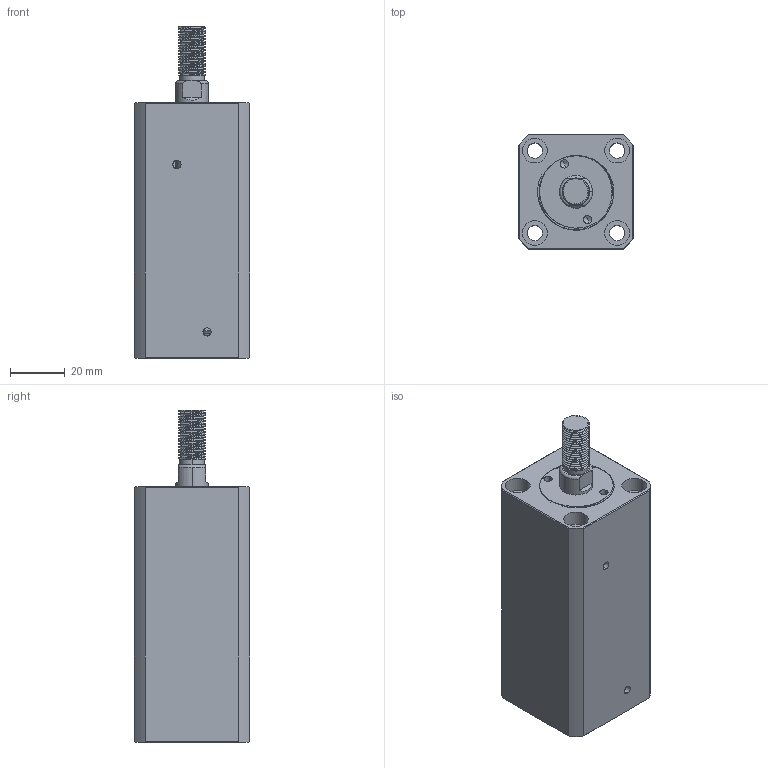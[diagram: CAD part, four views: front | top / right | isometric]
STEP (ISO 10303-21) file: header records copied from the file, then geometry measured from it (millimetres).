
FILE_DESCRIPTION (( 'STEP AP214' ), '1' );
FILE_NAME ('chtb-sdmb20x50w_asm.STEP', '2018-05-18T08:35:36', ( 'Windows' ), ( 'Microsoft' ), 'SwSTEP 2.0', 'SolidWorks 2015', '' );
FILE_SCHEMA (( 'AUTOMOTIVE_DESIGN' ));
Length unit declared in the file: millimetre
Products named in the file (4): QG_3; CHTB-SDMB20X50WHSG; CHTB-SDMB20X50NBT; chtb-sdmb20x50w_asm
Assembly tree (3 placements, depth 2):
  chtb-sdmb20x50w_asm
    CHTB-SDMB20X50NBT
    CHTB-SDMB20X50WHSG
    QG_3
Bounding box: 42 x 42 x 121 mm (x, y, z)
Volume: 140632.4 mm3; surface area: 41819.5 mm2
Topology: 3 solids, 3 shells, 243 faces, 660 edges, 439 vertices
Faces by surface type: cylinder 143, plane 47, torus 25, bspline 23, cone 5
Entity records: 14768 total; most frequent: CARTESIAN_POINT 8984, ORIENTED_EDGE 1312, DIRECTION 1058, EDGE_CURVE 656, VERTEX_POINT 439, AXIS2_PLACEMENT_3D 434, EDGE_LOOP 281, ADVANCED_FACE 243
